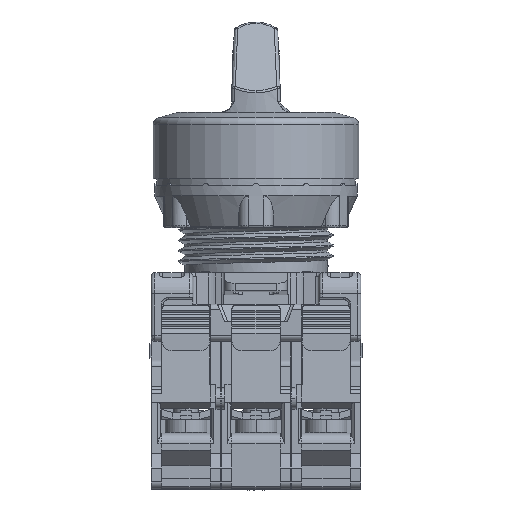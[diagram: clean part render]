
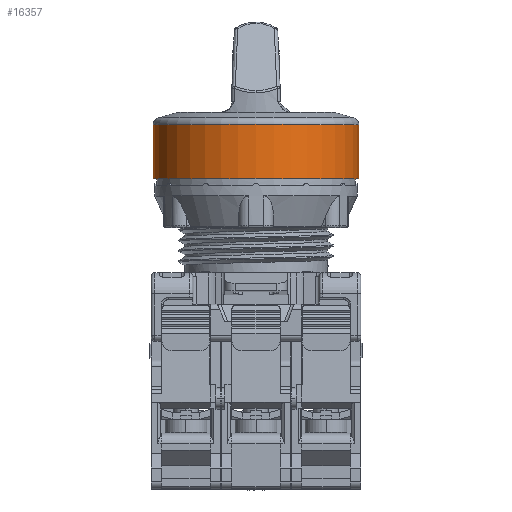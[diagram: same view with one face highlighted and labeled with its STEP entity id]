
A CAD part, top view. The second image highlights one B-rep face of the part: STEP entity #16357.
In plain terms, the highlighted cylindrical face has radius 14.75 mm (diameter 29.5 mm), a partial arc.
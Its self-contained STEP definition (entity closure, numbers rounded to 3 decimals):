
#12029 = VECTOR ( 'NONE', #98769, 1000. ) ;
#13121 = EDGE_CURVE ( 'NONE', #33370, #72213, #39822, .T. ) ;
#13927 = ORIENTED_EDGE ( 'NONE', *, *, #72058, .F. ) ;
#16357 = ADVANCED_FACE ( 'NONE', ( #67435 ), #107027, .T. ) ;
#18032 = CARTESIAN_POINT ( 'NONE',  ( 0., 0., 8.4 ) ) ;
#19061 = CARTESIAN_POINT ( 'NONE',  ( 14.75, 0., 0. ) ) ;
#20328 = DIRECTION ( 'NONE',  ( 0., 0., -1. ) ) ;
#25213 = AXIS2_PLACEMENT_3D ( 'NONE', #18032, #121734, #32708 ) ;
#32708 = DIRECTION ( 'NONE',  ( 1., 0., 0. ) ) ;
#33370 = VERTEX_POINT ( 'NONE', #19061 ) ;
#33410 = ORIENTED_EDGE ( 'NONE', *, *, #36324, .T. ) ;
#35802 = CARTESIAN_POINT ( 'NONE',  ( -14.75, 0., 0. ) ) ;
#36324 = EDGE_CURVE ( 'NONE', #88301, #33370, #61905, .T. ) ;
#39606 = ORIENTED_EDGE ( 'NONE', *, *, #13121, .T. ) ;
#39822 = CIRCLE ( 'NONE', #75248, 14.75 ) ;
#40449 = CARTESIAN_POINT ( 'NONE',  ( 14.75, 0., 7.749 ) ) ;
#45649 = CARTESIAN_POINT ( 'NONE',  ( -14.75, 0., 7.749 ) ) ;
#45686 = ORIENTED_EDGE ( 'NONE', *, *, #119422, .T. ) ;
#45796 = DIRECTION ( 'NONE',  ( 0., 0., 1. ) ) ;
#61905 = LINE ( 'NONE', #40449, #102422 ) ;
#63803 = CARTESIAN_POINT ( 'NONE',  ( 0., 0., 7.749 ) ) ;
#67435 = FACE_OUTER_BOUND ( 'NONE', #107809, .T. ) ;
#70591 = CIRCLE ( 'NONE', #87176, 14.75 ) ;
#72058 = EDGE_CURVE ( 'NONE', #88301, #76732, #70591, .T. ) ;
#72213 = VERTEX_POINT ( 'NONE', #35802 ) ;
#75248 = AXIS2_PLACEMENT_3D ( 'NONE', #104921, #45796, #86080 ) ;
#76732 = VERTEX_POINT ( 'NONE', #45649 ) ;
#79947 = LINE ( 'NONE', #100711, #12029 ) ;
#86080 = DIRECTION ( 'NONE',  ( 1., 0., 0. ) ) ;
#87176 = AXIS2_PLACEMENT_3D ( 'NONE', #63803, #94323, #103412 ) ;
#88301 = VERTEX_POINT ( 'NONE', #105038 ) ;
#94323 = DIRECTION ( 'NONE',  ( 0., 0., 1. ) ) ;
#98769 = DIRECTION ( 'NONE',  ( 0., 0., 1. ) ) ;
#100711 = CARTESIAN_POINT ( 'NONE',  ( -14.75, 0., 0. ) ) ;
#102422 = VECTOR ( 'NONE', #20328, 1000. ) ;
#103412 = DIRECTION ( 'NONE',  ( 1., 0., 0. ) ) ;
#104921 = CARTESIAN_POINT ( 'NONE',  ( 0., 0., 0. ) ) ;
#105038 = CARTESIAN_POINT ( 'NONE',  ( 14.75, 0., 7.749 ) ) ;
#107027 = CYLINDRICAL_SURFACE ( 'NONE', #25213, 14.75 ) ;
#107809 = EDGE_LOOP ( 'NONE', ( #39606, #45686, #13927, #33410 ) ) ;
#119422 = EDGE_CURVE ( 'NONE', #72213, #76732, #79947, .T. ) ;
#121734 = DIRECTION ( 'NONE',  ( 0., 0., -1. ) ) ;
